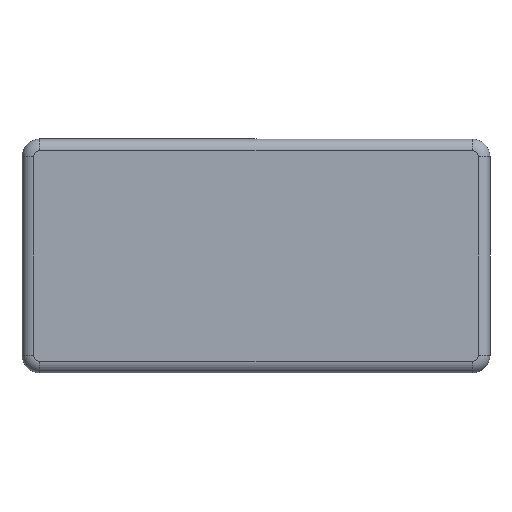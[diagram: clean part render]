
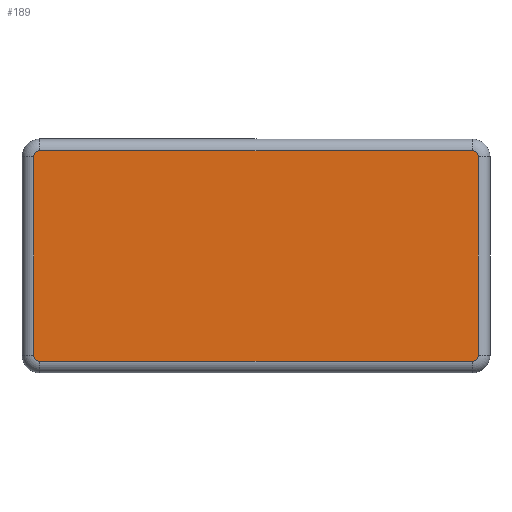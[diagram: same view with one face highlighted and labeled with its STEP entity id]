
A CAD part, front view. The second image highlights one B-rep face of the part: STEP entity #189.
In plain terms, the highlighted planar face has unit normal (0, -1, 0).
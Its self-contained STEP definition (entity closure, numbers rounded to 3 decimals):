
#25 = LINE ( 'NONE', #1343, #1655 ) ;
#35 = CARTESIAN_POINT ( 'NONE',  ( 38., -4., -17. ) ) ;
#46 = CARTESIAN_POINT ( 'NONE',  ( 37., -4., 17. ) ) ;
#91 = EDGE_CURVE ( 'NONE', #382, #636, #1565, .T. ) ;
#98 = DIRECTION ( 'NONE',  ( 0., 0., -1. ) ) ;
#132 = AXIS2_PLACEMENT_3D ( 'NONE', #340, #1233, #831 ) ;
#173 = DIRECTION ( 'NONE',  ( 0., 0., 1. ) ) ;
#179 = DIRECTION ( 'NONE',  ( 0., 0., 1. ) ) ;
#189 = ADVANCED_FACE ( 'NONE', ( #1070 ), #458, .F. ) ;
#208 = CIRCLE ( 'NONE', #1370, 1. ) ;
#248 = DIRECTION ( 'NONE',  ( 0., -1., 0. ) ) ;
#269 = LINE ( 'NONE', #444, #1638 ) ;
#276 = CIRCLE ( 'NONE', #132, 1. ) ;
#279 = AXIS2_PLACEMENT_3D ( 'NONE', #1347, #589, #1471 ) ;
#304 = CARTESIAN_POINT ( 'NONE',  ( 38., -4., 17. ) ) ;
#318 = LINE ( 'NONE', #365, #1634 ) ;
#340 = CARTESIAN_POINT ( 'NONE',  ( -37., -4., 17. ) ) ;
#365 = CARTESIAN_POINT ( 'NONE',  ( -38., -4., -17. ) ) ;
#368 = VERTEX_POINT ( 'NONE', #304 ) ;
#382 = VERTEX_POINT ( 'NONE', #1578 ) ;
#444 = CARTESIAN_POINT ( 'NONE',  ( -37., -4., 18. ) ) ;
#454 = EDGE_CURVE ( 'NONE', #1644, #368, #510, .T. ) ;
#458 = PLANE ( 'NONE',  #279 ) ;
#476 = EDGE_LOOP ( 'NONE', ( #1378, #1533, #829, #552, #1276, #973, #1465, #810 ) ) ;
#491 = EDGE_CURVE ( 'NONE', #636, #522, #25, .T. ) ;
#510 = LINE ( 'NONE', #1369, #766 ) ;
#522 = VERTEX_POINT ( 'NONE', #1000 ) ;
#552 = ORIENTED_EDGE ( 'NONE', *, *, #1367, .T. ) ;
#577 = EDGE_CURVE ( 'NONE', #952, #382, #318, .T. ) ;
#589 = DIRECTION ( 'NONE',  ( 0., 1., 0. ) ) ;
#636 = VERTEX_POINT ( 'NONE', #737 ) ;
#734 = VERTEX_POINT ( 'NONE', #1007 ) ;
#737 = CARTESIAN_POINT ( 'NONE',  ( -37., -4., -18. ) ) ;
#766 = VECTOR ( 'NONE', #173, 1000. ) ;
#810 = ORIENTED_EDGE ( 'NONE', *, *, #998, .T. ) ;
#829 = ORIENTED_EDGE ( 'NONE', *, *, #491, .T. ) ;
#831 = DIRECTION ( 'NONE',  ( 0., 0., 1. ) ) ;
#840 = CARTESIAN_POINT ( 'NONE',  ( -38., -4., 17. ) ) ;
#891 = AXIS2_PLACEMENT_3D ( 'NONE', #1021, #248, #1151 ) ;
#912 = EDGE_CURVE ( 'NONE', #368, #1573, #208, .T. ) ;
#952 = VERTEX_POINT ( 'NONE', #840 ) ;
#959 = DIRECTION ( 'NONE',  ( 0., -1., 0. ) ) ;
#964 = EDGE_CURVE ( 'NONE', #1573, #734, #269, .T. ) ;
#973 = ORIENTED_EDGE ( 'NONE', *, *, #912, .T. ) ;
#998 = EDGE_CURVE ( 'NONE', #734, #952, #276, .T. ) ;
#1000 = CARTESIAN_POINT ( 'NONE',  ( 37., -4., -18. ) ) ;
#1007 = CARTESIAN_POINT ( 'NONE',  ( -37., -4., 18. ) ) ;
#1021 = CARTESIAN_POINT ( 'NONE',  ( 37., -4., -17. ) ) ;
#1070 = FACE_OUTER_BOUND ( 'NONE', #476, .T. ) ;
#1095 = DIRECTION ( 'NONE',  ( 1., 0., 0. ) ) ;
#1151 = DIRECTION ( 'NONE',  ( 0., 0., 1. ) ) ;
#1176 = AXIS2_PLACEMENT_3D ( 'NONE', #1594, #1469, #1214 ) ;
#1214 = DIRECTION ( 'NONE',  ( 0., 0., 1. ) ) ;
#1233 = DIRECTION ( 'NONE',  ( 0., -1., 0. ) ) ;
#1276 = ORIENTED_EDGE ( 'NONE', *, *, #454, .T. ) ;
#1343 = CARTESIAN_POINT ( 'NONE',  ( 37., -4., -18. ) ) ;
#1347 = CARTESIAN_POINT ( 'NONE',  ( 0., -4., 0. ) ) ;
#1348 = DIRECTION ( 'NONE',  ( -1., 0., 0. ) ) ;
#1367 = EDGE_CURVE ( 'NONE', #522, #1644, #1493, .T. ) ;
#1369 = CARTESIAN_POINT ( 'NONE',  ( 38., -4., 17. ) ) ;
#1370 = AXIS2_PLACEMENT_3D ( 'NONE', #46, #959, #179 ) ;
#1378 = ORIENTED_EDGE ( 'NONE', *, *, #577, .T. ) ;
#1465 = ORIENTED_EDGE ( 'NONE', *, *, #964, .T. ) ;
#1469 = DIRECTION ( 'NONE',  ( 0., -1., 0. ) ) ;
#1471 = DIRECTION ( 'NONE',  ( 0., 0., 1. ) ) ;
#1493 = CIRCLE ( 'NONE', #891, 1. ) ;
#1533 = ORIENTED_EDGE ( 'NONE', *, *, #91, .T. ) ;
#1545 = CARTESIAN_POINT ( 'NONE',  ( 37., -4., 18. ) ) ;
#1565 = CIRCLE ( 'NONE', #1176, 1. ) ;
#1573 = VERTEX_POINT ( 'NONE', #1545 ) ;
#1578 = CARTESIAN_POINT ( 'NONE',  ( -38., -4., -17. ) ) ;
#1594 = CARTESIAN_POINT ( 'NONE',  ( -37., -4., -17. ) ) ;
#1634 = VECTOR ( 'NONE', #98, 1000. ) ;
#1638 = VECTOR ( 'NONE', #1348, 1000. ) ;
#1644 = VERTEX_POINT ( 'NONE', #35 ) ;
#1655 = VECTOR ( 'NONE', #1095, 1000. ) ;
